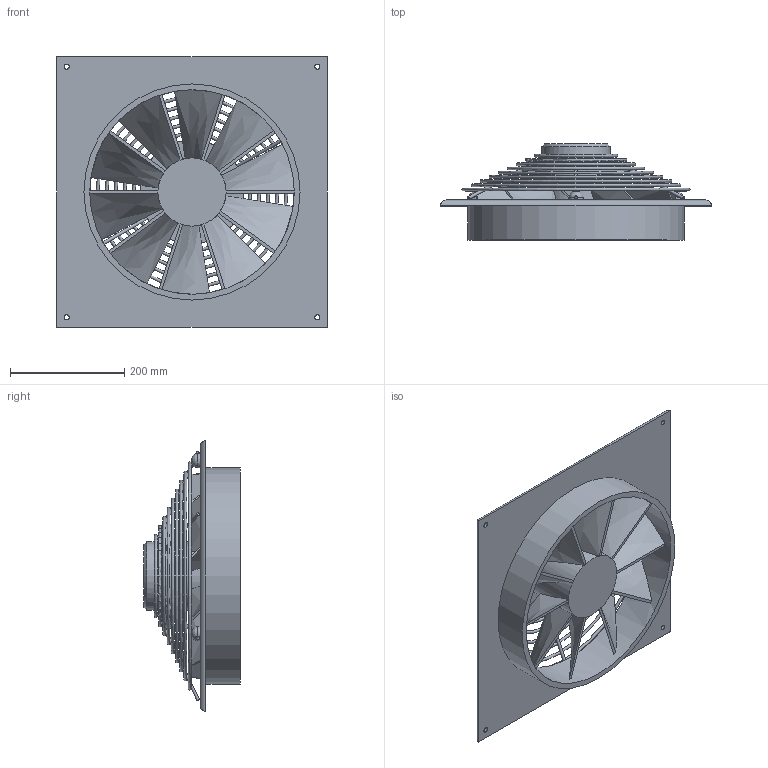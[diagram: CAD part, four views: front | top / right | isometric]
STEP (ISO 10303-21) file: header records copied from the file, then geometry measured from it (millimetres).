
FILE_DESCRIPTION(/* description */ (''),/* implementation_level */ '2;1');
FILE_NAME(/* name */ 'Z:\Output\HQW EC 355 A-04916-001.stp',/* time_stamp */ '2017-05-04T16:55:07+02:00',/* author */ ('pareshmistry'),/* organization */ (''),/* preprocessor_version */ 'ST-DEVELOPER v16.5',/* originating_system */ 'Autodesk Inventor 2017',/* authorisation */ '');
FILE_SCHEMA (('AUTOMOTIVE_DESIGN { 1 0 10303 214 3 1 1 }'));
Length unit declared in the file: millimetre
Products named in the file (1): HQW EC 450
Bounding box: 475 x 169 x 475 mm (x, y, z)
Volume: 4547653.5 mm3; surface area: 894259.5 mm2
Topology: 9 solids, 9 shells, 138 faces, 417 edges, 273 vertices
Faces by surface type: bspline 53, plane 42, cylinder 32, torus 9, cone 2
Full cylindrical faces by diameter (mm): 5 x15, 9 x4, 25 x3, 119.667 x2, 182.55 x1, 359 x1, 379 x1
Entity records: 5690 total; most frequent: CARTESIAN_POINT 2575, ORIENTED_EDGE 702, DIRECTION 502, EDGE_CURVE 341, VERTEX_POINT 236, EDGE_LOOP 187, AXIS2_PLACEMENT_3D 182, LINE 138
